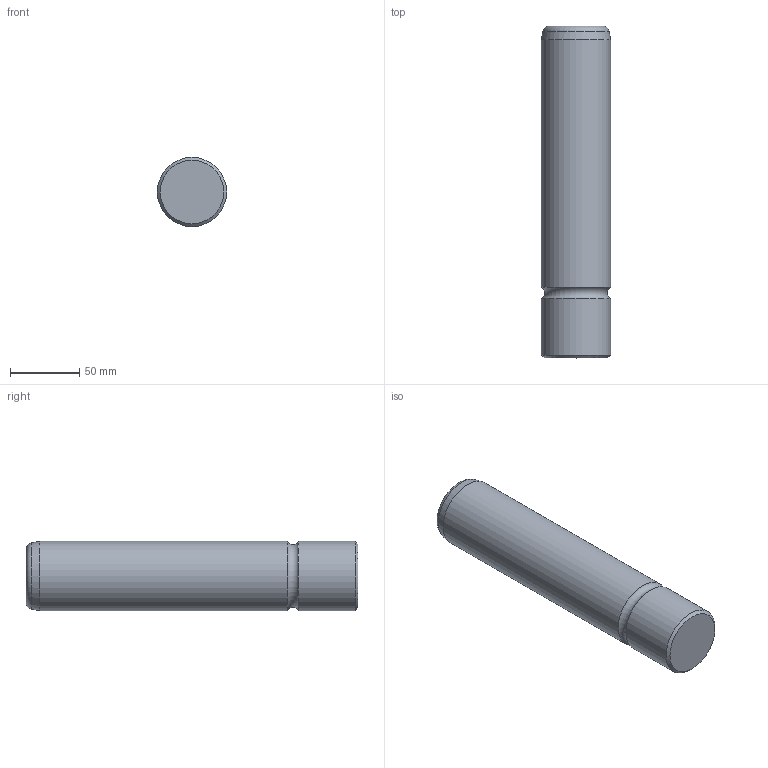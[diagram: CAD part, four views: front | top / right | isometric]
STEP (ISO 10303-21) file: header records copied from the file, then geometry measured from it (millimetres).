
FILE_DESCRIPTION( ( 'STEP AP203' ), '1' );
FILE_NAME( 'D:/Cuma/23 02 2009/D10 Serisi/D10_50240.step', '2002-12-31T22:49:05', ( ' ' ), ( ' ' ), 'XStep 1.0', ' ', ' ' );
FILE_SCHEMA( ( 'CONFIG_CONTROL_DESIGN' ) );
Length unit declared in the file: metre
Products named in the file (1): 1
Bounding box: 50 x 240 x 50 mm (x, y, z)
Volume: 466925.7 mm3; surface area: 41126.7 mm2
Topology: 1 solids, 1 shells, 8 faces, 13 edges, 7 vertices
Faces by surface type: plane 2, torus 2, cone 2, cylinder 2
Full cylindrical faces by diameter (mm): 50 x2
Entity records: 199 total; most frequent: DIRECTION 32, CARTESIAN_POINT 23, AXIS2_PLACEMENT_3D 16, EDGE_LOOP 14, ORIENTED_EDGE 14, FACE_OUTER_BOUND 12, ADVANCED_FACE 8, EDGE_CURVE 7
